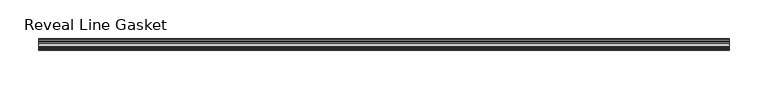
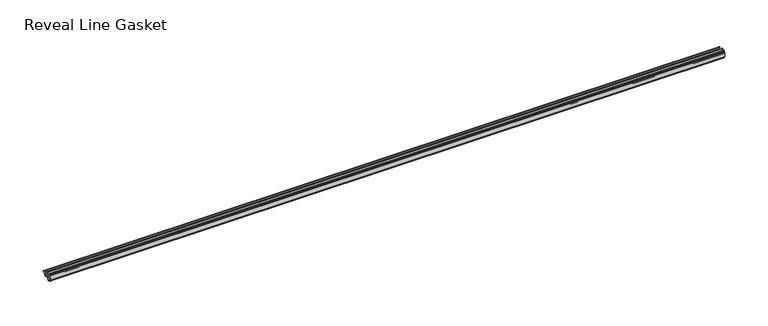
"""IFC4 building model written with IfcOpenShell, lengths in millimetres: proxy geometry, Accessories-Teknion-FHGR-AI_Healthcare-Reveal_Line_Gasket(Horizontal)-R2022 : Reveal Line Gasket."""

from ifc_helpers import new_model, si_unit, point, frame, frame_2d, origin, place, context, project, spatial, polyline, circle_curve, trimmed, segment, composite_curve, outline, extrude, source, transform, mapped, element, save


def reveal_line_gasket_031addda(model_context):
    return source(origin(), model_context, "Body", "SweptSolid", [
        extrude(outline(composite_curve([segment(polyline([(-7.6326998, 1603.2), (-7.4091917, 1604.1554927), (-6.8813059, 1605.0884684)]), True, "CONTINUOUS"), segment(trimmed(circle_curve(frame_2d((-6.5243141, 1604.8864793)), 0.4101739), [point((-6.8813059, 1605.0884684))], [point((-6.1246704, 1604.7941347))], False, "CARTESIAN"), True, "CONTINUOUS"), segment(polyline([(-6.1246704, 1604.7941347), (-6.3626997, 1603.0979086), (-6.3626997, 1601.0654527)]), True, "CONTINUOUS"), segment(trimmed(circle_curve(frame_2d((-5.6959605, 1601.4819258)), 0.786124), [point((-6.3626997, 1601.0654527))], [point((-5.0926996, 1600.977875))], True, "CARTESIAN"), True, "CONTINUOUS"), segment(polyline([(-5.0926996, 1600.977875), (-0.7492996, 1600.977875), (-3.7293824, 1606.1395295)]), True, "CONTINUOUS"), segment(trimmed(circle_curve(frame_2d((-3.3132479, 1606.2049761)), 0.4212495), [point((-3.7293824, 1606.1395295))], [point((-3.0485022, 1606.5326358))], False, "CARTESIAN"), True, "CONTINUOUS"), segment(polyline([(-3.0485022, 1606.5326358), (0.5742594, 1600.977875), (4.8262978, 1600.977875), (3.1660374, 1603.8535297)]), True, "CONTINUOUS"), segment(trimmed(circle_curve(frame_2d((3.5978728, 1603.9118855)), 0.4357605), [point((3.1660374, 1603.8535297))], [point((3.864328, 1604.2566881))], False, "CARTESIAN"), True, "CONTINUOUS"), segment(polyline([(3.864328, 1604.2566881), (6.1944059, 1600.977875), (7.6326998, 1600.977875), (7.6326998, 1599.422125), (6.1944059, 1599.422125), (3.864328, 1596.1433119)]), True, "CONTINUOUS"), segment(trimmed(circle_curve(frame_2d((3.5978728, 1596.4881145)), 0.4357605), [point((3.864328, 1596.1433119))], [point((3.1660374, 1596.5464703))], False, "CARTESIAN"), True, "CONTINUOUS"), segment(polyline([(3.1660374, 1596.5464703), (4.8262978, 1599.422125), (0.5742594, 1599.422125), (-3.0485022, 1593.8673642)]), True, "CONTINUOUS"), segment(trimmed(circle_curve(frame_2d((-3.3132479, 1594.1950239)), 0.4212495), [point((-3.0485022, 1593.8673642))], [point((-3.7293824, 1594.2604705))], False, "CARTESIAN"), True, "CONTINUOUS"), segment(polyline([(-3.7293824, 1594.2604705), (-0.7492996, 1599.422125), (-5.0926996, 1599.422125)]), True, "CONTINUOUS"), segment(trimmed(circle_curve(frame_2d((-5.6959605, 1598.9180742)), 0.786124), [point((-5.0926996, 1599.422125))], [point((-6.3626997, 1599.3345473))], True, "CARTESIAN"), True, "CONTINUOUS"), segment(polyline([(-6.3626997, 1599.3345473), (-6.3626997, 1597.3020914), (-6.1246704, 1595.6058653)]), True, "CONTINUOUS"), segment(trimmed(circle_curve(frame_2d((-6.5243141, 1595.5135207)), 0.4101739), [point((-6.1246704, 1595.6058653))], [point((-6.8813059, 1595.3115316))], False, "CARTESIAN"), True, "CONTINUOUS"), segment(polyline([(-6.8813059, 1595.3115316), (-7.4091917, 1596.2445073), (-7.6326998, 1597.2), (-7.6326998, 1603.2)]), True, "CONTINUOUS")], self_intersect=False)), frame((-448.1315163, 0.0, 0.0), z_axis=(1.0, 0.0, 0.0), x_axis=(0.0, 1.0, 0.0)), (0.0, 0.0, 1.0), 896.2630326),
    ])


if __name__ == "__main__":
    model = new_model("IFC4")
    model_context = context("Model", 3, world=origin())
    ifc_project = project(units=[si_unit("LENGTHUNIT", "METRE", prefix="MILLI")], contexts=[model_context])
    site = spatial("IfcSite", under=ifc_project)
    building = spatial("IfcBuilding", under=site)
    placement = place(None, origin())
    reveal_line_gasket_shape = reveal_line_gasket_031addda(model_context)
    element("IfcBuildingElementProxy", 1, Name="Accessories-Teknion-FHGR-AI_Healthcare-Reveal_Line_Gasket(Horizontal)-R2022 : Reveal Line Gasket", ObjectType="Accessories-Teknion-FHGR-AI_Healthcare-Reveal_Line_Gasket(Horizontal)-R2022 : Reveal Line Gasket", at=placement, inside=building, context=model_context, shape_type="MappedRepresentation", body=[
        mapped(reveal_line_gasket_shape, transform((0.0, 0.0, 0.0), x_axis=(1.0, 0.0, 0.0), y_axis=(0.0, 1.0, 0.0), z_axis=(0.0, 0.0, 1.0))),
    ])
    save(model, "model.ifc")
